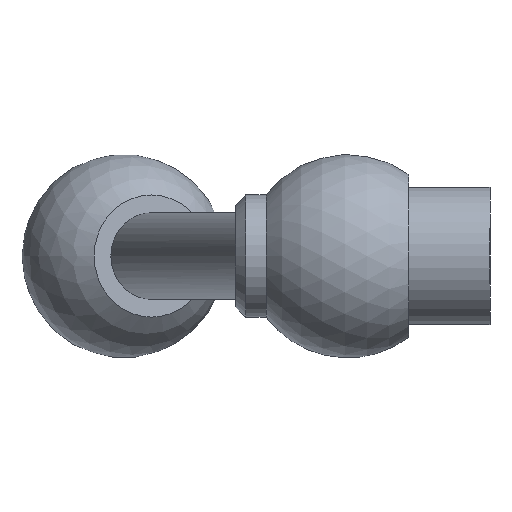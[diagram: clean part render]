
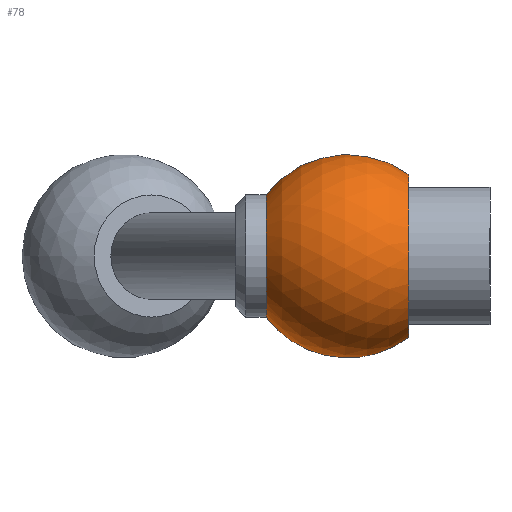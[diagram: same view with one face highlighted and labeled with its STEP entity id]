
A CAD part, left-side view. The second image highlights one B-rep face of the part: STEP entity #78.
In plain terms, the highlighted spherical face has radius 10 mm.
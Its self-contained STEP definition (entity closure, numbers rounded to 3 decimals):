
#78 = ADVANCED_FACE( '', ( #100, #101, #102 ), #103, .T. );
#100 = FACE_OUTER_BOUND( '', #145, .T. );
#101 = FACE_BOUND( '', #146, .T. );
#102 = FACE_OUTER_BOUND( '', #147, .T. );
#103 = SPHERICAL_SURFACE( '', #148, 10. );
#145 = EDGE_LOOP( '', ( #196 ) );
#146 = EDGE_LOOP( '', ( #197 ) );
#147 = EDGE_LOOP( '', ( #198 ) );
#148 = AXIS2_PLACEMENT_3D( '', #199, #200, #201 );
#196 = ORIENTED_EDGE( '', *, *, #261, .T. );
#197 = ORIENTED_EDGE( '', *, *, #260, .T. );
#198 = ORIENTED_EDGE( '', *, *, #262, .F. );
#199 = CARTESIAN_POINT( '', ( 0., 14., 0. ) );
#200 = DIRECTION( '', ( 0., -1., 0. ) );
#201 = DIRECTION( '', ( 1., 0., 0. ) );
#260 = EDGE_CURVE( '', #278, #278, #279, .T. );
#261 = EDGE_CURVE( '', #280, #280, #281, .T. );
#262 = EDGE_CURVE( '', #282, #282, #283, .T. );
#278 = VERTEX_POINT( '', #306 );
#279 = B_SPLINE_CURVE_WITH_KNOTS( '', 3, ( #307, #308, #309, #310, #311, #312, #313, #314, #315, #316, #317, #318, #319, #320, #321, #322, #323, #324, #325, #326, #327, #328, #329, #330, #331, #332, #333, #334, #335, #336, #337, #338, #339, #340, #341, #342, #343, #344, #345, #346, #347, #348, #349, #350, #351, #352, #353, #354, #355, #356, #357, #358, #359, #360, #361, #362, #363, #364, #365, #366, #367, #368, #369, #370, #371, #372 ), .UNSPECIFIED., .T., .F., ( 2, 2, 2, 2, 2, 2, 2, 2, 2, 2, 2, 2, 2, 2, 2, 2, 2, 2, 2, 2, 2, 2, 2, 2, 2, 2, 2, 2, 2, 2, 2, 2, 2, 2, 2 ), ( -0.001, 0., 0.001, 0.002, 0.002, 0.003, 0.004, 0.005, 0.006, 0.007, 0.007, 0.008, 0.009, 0.01, 0.011, 0.012, 0.012, 0.013, 0.014, 0.015, 0.016, 0.017, 0.017, 0.018, 0.019, 0.02, 0.021, 0.022, 0.022, 0.023, 0.024, 0.025, 0.026, 0.027, 0.027 ), .UNSPECIFIED. );
#280 = VERTEX_POINT( '', #373 );
#281 = CIRCLE( '', #374, 6. );
#282 = VERTEX_POINT( '', #375 );
#283 = CIRCLE( '', #376, 8. );
#306 = CARTESIAN_POINT( '', ( 9.64, 14.14, -2.657 ) );
#307 = CARTESIAN_POINT( '', ( 9.577, 14.304, -2.876 ) );
#308 = CARTESIAN_POINT( '', ( 9.702, 13.976, -2.438 ) );
#309 = CARTESIAN_POINT( '', ( 9.756, 13.835, -2.205 ) );
#310 = CARTESIAN_POINT( '', ( 9.848, 13.597, -1.713 ) );
#311 = CARTESIAN_POINT( '', ( 9.885, 13.499, -1.452 ) );
#312 = CARTESIAN_POINT( '', ( 9.941, 13.354, -0.916 ) );
#313 = CARTESIAN_POINT( '', ( 9.959, 13.306, -0.644 ) );
#314 = CARTESIAN_POINT( '', ( 9.976, 13.261, -0.091 ) );
#315 = CARTESIAN_POINT( '', ( 9.975, 13.265, 0.192 ) );
#316 = CARTESIAN_POINT( '', ( 9.953, 13.322, 0.743 ) );
#317 = CARTESIAN_POINT( '', ( 9.933, 13.375, 1.014 ) );
#318 = CARTESIAN_POINT( '', ( 9.872, 13.532, 1.547 ) );
#319 = CARTESIAN_POINT( '', ( 9.833, 13.635, 1.805 ) );
#320 = CARTESIAN_POINT( '', ( 9.737, 13.885, 2.29 ) );
#321 = CARTESIAN_POINT( '', ( 9.681, 14.032, 2.521 ) );
#322 = CARTESIAN_POINT( '', ( 9.552, 14.368, 2.949 ) );
#323 = CARTESIAN_POINT( '', ( 9.481, 14.554, 3.143 ) );
#324 = CARTESIAN_POINT( '', ( 9.326, 14.958, 3.489 ) );
#325 = CARTESIAN_POINT( '', ( 9.242, 15.179, 3.644 ) );
#326 = CARTESIAN_POINT( '', ( 9.065, 15.64, 3.9 ) );
#327 = CARTESIAN_POINT( '', ( 8.973, 15.88, 4.003 ) );
#328 = CARTESIAN_POINT( '', ( 8.782, 16.379, 4.158 ) );
#329 = CARTESIAN_POINT( '', ( 8.683, 16.638, 4.21 ) );
#330 = CARTESIAN_POINT( '', ( 8.485, 17.153, 4.258 ) );
#331 = CARTESIAN_POINT( '', ( 8.386, 17.412, 4.255 ) );
#332 = CARTESIAN_POINT( '', ( 8.187, 17.933, 4.194 ) );
#333 = CARTESIAN_POINT( '', ( 8.089, 18.187, 4.136 ) );
#334 = CARTESIAN_POINT( '', ( 7.9, 18.68, 3.969 ) );
#335 = CARTESIAN_POINT( '', ( 7.808, 18.922, 3.859 ) );
#336 = CARTESIAN_POINT( '', ( 7.633, 19.378, 3.59 ) );
#337 = CARTESIAN_POINT( '', ( 7.551, 19.592, 3.434 ) );
#338 = CARTESIAN_POINT( '', ( 7.399, 19.989, 3.077 ) );
#339 = CARTESIAN_POINT( '', ( 7.328, 20.174, 2.874 ) );
#340 = CARTESIAN_POINT( '', ( 7.204, 20.498, 2.441 ) );
#341 = CARTESIAN_POINT( '', ( 7.15, 20.639, 2.21 ) );
#342 = CARTESIAN_POINT( '', ( 7.058, 20.88, 1.714 ) );
#343 = CARTESIAN_POINT( '', ( 7.02, 20.977, 1.453 ) );
#344 = CARTESIAN_POINT( '', ( 6.965, 21.122, 0.922 ) );
#345 = CARTESIAN_POINT( '', ( 6.946, 21.17, 0.647 ) );
#346 = CARTESIAN_POINT( '', ( 6.929, 21.215, 0.089 ) );
#347 = CARTESIAN_POINT( '', ( 6.93, 21.212, -0.188 ) );
#348 = CARTESIAN_POINT( '', ( 6.952, 21.156, -0.739 ) );
#349 = CARTESIAN_POINT( '', ( 6.973, 21.101, -1.015 ) );
#350 = CARTESIAN_POINT( '', ( 7.033, 20.945, -1.546 ) );
#351 = CARTESIAN_POINT( '', ( 7.071, 20.843, -1.8 ) );
#352 = CARTESIAN_POINT( '', ( 7.167, 20.593, -2.288 ) );
#353 = CARTESIAN_POINT( '', ( 7.224, 20.444, -2.521 ) );
#354 = CARTESIAN_POINT( '', ( 7.352, 20.112, -2.945 ) );
#355 = CARTESIAN_POINT( '', ( 7.423, 19.927, -3.139 ) );
#356 = CARTESIAN_POINT( '', ( 7.579, 19.518, -3.49 ) );
#357 = CARTESIAN_POINT( '', ( 7.663, 19.3, -3.642 ) );
#358 = CARTESIAN_POINT( '', ( 7.839, 18.842, -3.898 ) );
#359 = CARTESIAN_POINT( '', ( 7.932, 18.598, -4.003 ) );
#360 = CARTESIAN_POINT( '', ( 8.124, 18.098, -4.159 ) );
#361 = CARTESIAN_POINT( '', ( 8.221, 17.843, -4.209 ) );
#362 = CARTESIAN_POINT( '', ( 8.419, 17.327, -4.258 ) );
#363 = CARTESIAN_POINT( '', ( 8.52, 17.063, -4.255 ) );
#364 = CARTESIAN_POINT( '', ( 8.717, 16.548, -4.194 ) );
#365 = CARTESIAN_POINT( '', ( 8.814, 16.294, -4.138 ) );
#366 = CARTESIAN_POINT( '', ( 9.005, 15.797, -3.97 ) );
#367 = CARTESIAN_POINT( '', ( 9.097, 15.556, -3.859 ) );
#368 = CARTESIAN_POINT( '', ( 9.271, 15.103, -3.593 ) );
#369 = CARTESIAN_POINT( '', ( 9.353, 14.888, -3.436 ) );
#370 = CARTESIAN_POINT( '', ( 9.507, 14.486, -3.076 ) );
#371 = CARTESIAN_POINT( '', ( 9.577, 14.304, -2.876 ) );
#372 = CARTESIAN_POINT( '', ( 9.702, 13.976, -2.438 ) );
#373 = CARTESIAN_POINT( '', ( 0., 22., -6. ) );
#374 = AXIS2_PLACEMENT_3D( '', #402, #403, #404 );
#375 = CARTESIAN_POINT( '', ( 0., 8., -8. ) );
#376 = AXIS2_PLACEMENT_3D( '', #405, #406, #407 );
#402 = CARTESIAN_POINT( '', ( 0., 22., 0. ) );
#403 = DIRECTION( '', ( 0., -1., 0. ) );
#404 = DIRECTION( '', ( 0., 0., -1. ) );
#405 = CARTESIAN_POINT( '', ( 0., 8., 0. ) );
#406 = DIRECTION( '', ( 0., -1., 0. ) );
#407 = DIRECTION( '', ( 0., 0., -1. ) );
